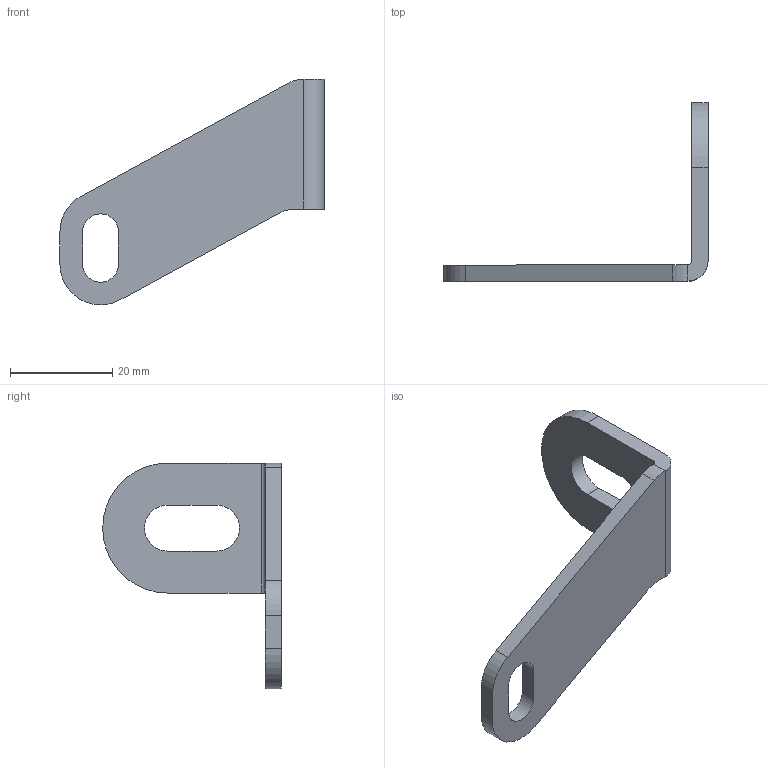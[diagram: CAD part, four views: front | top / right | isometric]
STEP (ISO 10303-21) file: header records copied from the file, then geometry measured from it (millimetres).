
FILE_DESCRIPTION (( 'STEP AP203' ), '1' );
FILE_NAME ('Oil Cooler Mounting Bracket Inner Upper Mirror REV1.STEP', '2024-06-23T22:58:37', ( '' ), ( '' ), 'SwSTEP 2.0', 'SolidWorks 2022', '' );
FILE_SCHEMA (( 'CONFIG_CONTROL_DESIGN' ));
Length unit declared in the file: inch
Products named in the file (1): Oil Cooler Mounting Bracket Inner Upper Mirror REV1
Bounding box: 51.63 x 34.92 x 44.13 mm (x, y, z)
Volume: 5405.1 mm3; surface area: 4315.7 mm2
Topology: 1 solids, 1 shells, 25 faces, 67 edges, 44 vertices
Faces by surface type: plane 13, cylinder 12
Entity records: 876 total; most frequent: DIRECTION 143, CARTESIAN_POINT 137, ORIENTED_EDGE 134, EDGE_CURVE 67, AXIS2_PLACEMENT_3D 50, VERTEX_POINT 44, VECTOR 43, LINE 43
